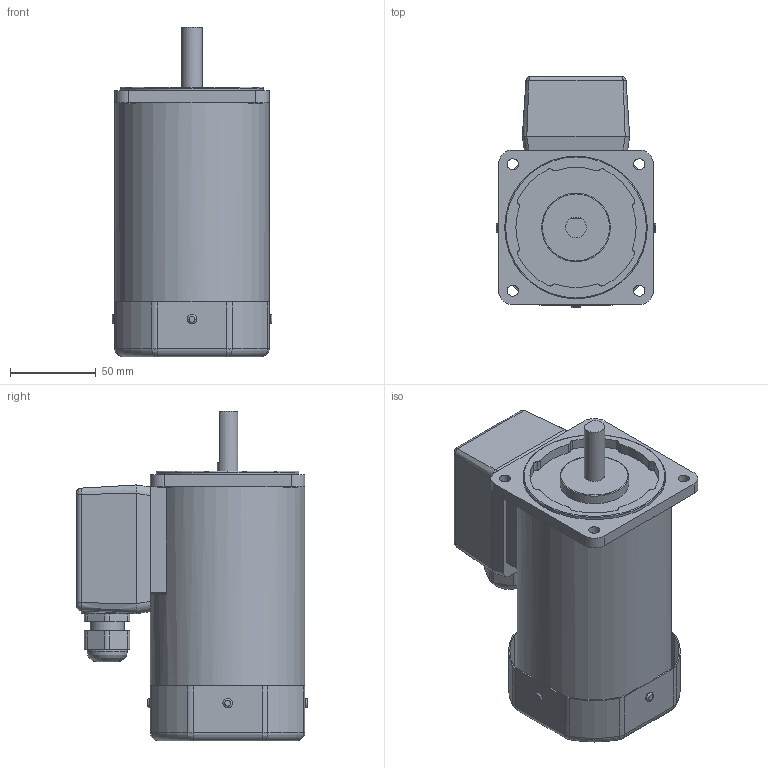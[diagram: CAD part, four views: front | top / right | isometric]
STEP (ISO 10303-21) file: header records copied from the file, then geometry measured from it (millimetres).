
FILE_DESCRIPTION((''),'2;1');
FILE_NAME('E:\2공장-도면\3D\표준형 3D(민규)\step file\K9IS180Fㅁ-T.stp','2014-11-13T10:27:39',('AHN'),(''),'Autodesk Inventor 2012','Autodesk Inventor 2012','');
FILE_SCHEMA(('CONFIG_CONTROL_DESIGN'));
Length unit declared in the file: millimetre
Products named in the file (3): K9IS180Fㅁ-T; K9IS180Fㅁ; TERMINAL BOX
Assembly tree (2 placements, depth 2):
  K9IS180Fㅁ-T
    K9IS180Fㅁ
    TERMINAL BOX
Bounding box: 93 x 134.5 x 192 mm (x, y, z)
Volume: 1119098.9 mm3; surface area: 111419 mm2
Topology: 2 solids, 8 shells, 323 faces, 773 edges, 470 vertices
Faces by surface type: cylinder 151, plane 103, torus 48, bspline 21
Full cylindrical faces by diameter (mm): 5.5 x4, 6.5 x4, 8 x4, 12 x1, 20 x1, 23.5 x1, 40 x1, 83 x1, 90 x1
Entity records: 10517 total; most frequent: CARTESIAN_POINT 3023, DIRECTION 1584, ORIENTED_EDGE 1484, EDGE_CURVE 742, AXIS2_PLACEMENT_3D 619, VERTEX_POINT 466, EDGE_LOOP 396, VECTOR 346
